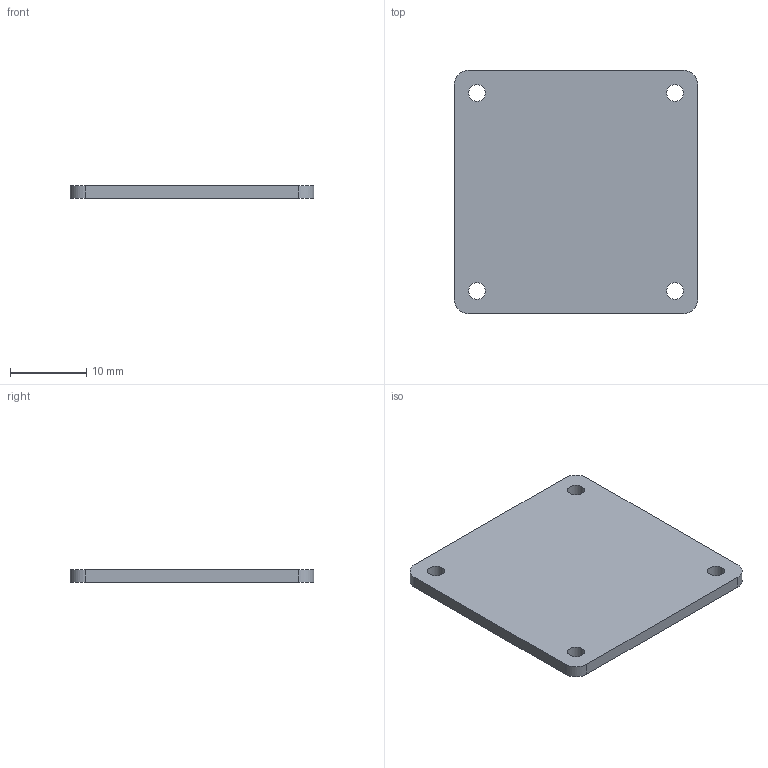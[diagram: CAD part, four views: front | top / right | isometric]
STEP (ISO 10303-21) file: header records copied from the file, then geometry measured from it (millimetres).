
FILE_DESCRIPTION(('FreeCAD Model'),'2;1');
FILE_NAME('Open CASCADE Shape Model','2026-10-20T15:22:03',('FreeCAD'),( 'FreeCAD'),'Open CASCADE STEP processor 7.8','FreeCAD','Unknown');
FILE_SCHEMA(('AUTOMOTIVE_DESIGN { 1 0 10303 214 1 1 1 1 }'));
Length unit declared in the file: millimetre
Products named in the file (1): Open CASCADE STEP translator 7.8 2
Bounding box: 32 x 32 x 1.6 mm (x, y, z)
Volume: 1608.6 mm3; surface area: 2254.3 mm2
Topology: 1 solids, 1 shells, 14 faces, 36 edges, 24 vertices
Faces by surface type: cylinder 8, plane 6
Full cylindrical faces by diameter (mm): 2.2 x4
Entity records: 462 total; most frequent: DIRECTION 82, CARTESIAN_POINT 75, ORIENTED_EDGE 72, EDGE_CURVE 36, AXIS2_PLACEMENT_3D 31, VERTEX_POINT 24, FACE_BOUND 22, EDGE_LOOP 22
